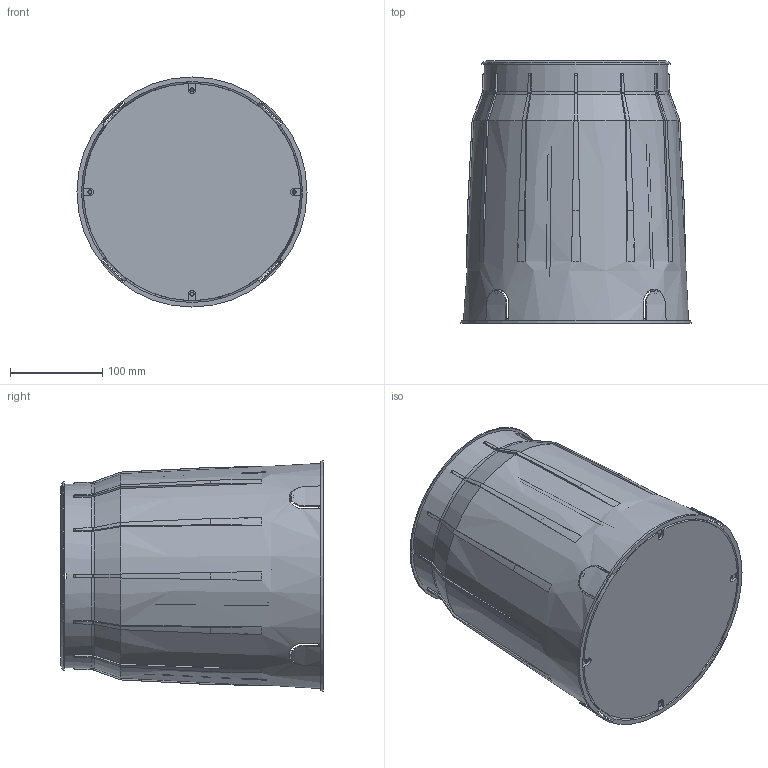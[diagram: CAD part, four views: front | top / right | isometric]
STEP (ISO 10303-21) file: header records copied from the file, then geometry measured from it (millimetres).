
FILE_DESCRIPTION (( 'STEP AP214' ), '1' );
FILE_NAME ('a_TERRA MEDIUM RGBW SKIN assy.STEP', '2022-09-16T08:18:57', ( '' ), ( '' ), 'SwSTEP 2.0', 'SolidWorks 2022', '' );
FILE_SCHEMA (( 'AUTOMOTIVE_DESIGN' ));
Length unit declared in the file: millimetre
Products named in the file (1): a_TERRA MEDIUM RGBW SKIN assy
Bounding box: 250 x 285.2 x 250 mm (x, y, z)
Surface area: 570936.6 mm2 (no closed solid volume)
Topology: 0 solids, 7 shells, 243 faces, 960 edges, 692 vertices
Faces by surface type: cone 87, plane 77, torus 38, cylinder 30, bspline 11
Full cylindrical faces by diameter (mm): 4.6 x4, 170 x1, 205 x1, 235.884 x1
Entity records: 14627 total; most frequent: CARTESIAN_POINT 4885, ORIENTED_EDGE 1595, DIRECTION 1219, EDGE_CURVE 939, VERTEX_POINT 684, AXIS2_PLACEMENT_3D 514, B_SPLINE_CURVE_WITH_KNOTS 417, CIRCLE 281
